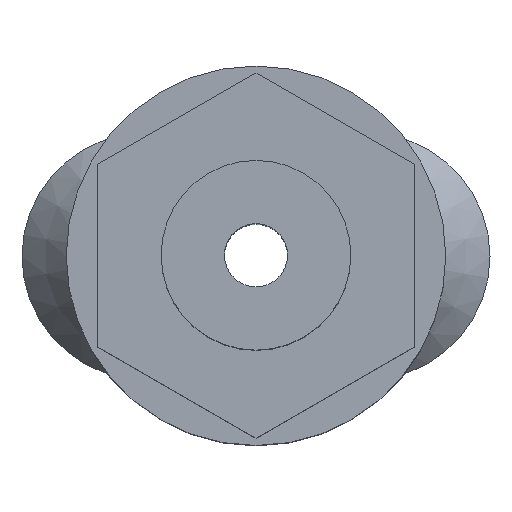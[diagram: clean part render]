
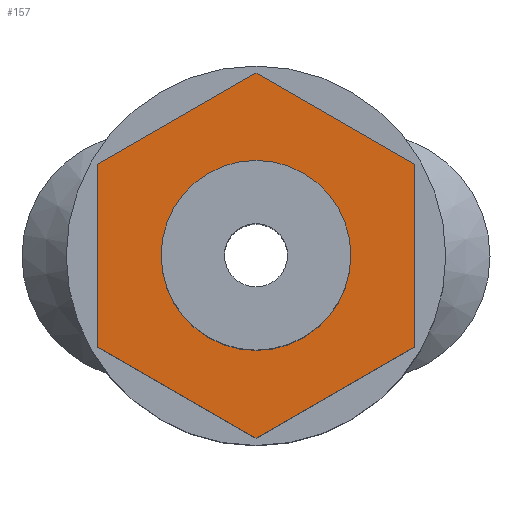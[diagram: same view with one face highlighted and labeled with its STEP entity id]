
A CAD part, top view. The second image highlights one B-rep face of the part: STEP entity #157.
In plain terms, the highlighted planar face has unit normal (0, 0, 1).
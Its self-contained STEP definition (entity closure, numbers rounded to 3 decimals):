
#157=ADVANCED_FACE('NONE',(#323,#324),#325,.T.);
#323=FACE_OUTER_BOUND('',#496,.T.);
#324=FACE_BOUND('',#497,.T.);
#325=PLANE('',#498);
#496=EDGE_LOOP('',(#887,#888,#889,#890,#891,#892));
#497=EDGE_LOOP('',(#893,#894));
#498=AXIS2_PLACEMENT_3D('',#895,#896,#897);
#887=ORIENTED_EDGE('',*,*,#1109,.T.);
#888=ORIENTED_EDGE('',*,*,#1113,.T.);
#889=ORIENTED_EDGE('',*,*,#1116,.T.);
#890=ORIENTED_EDGE('',*,*,#1119,.T.);
#891=ORIENTED_EDGE('',*,*,#1122,.T.);
#892=ORIENTED_EDGE('',*,*,#1124,.T.);
#893=ORIENTED_EDGE('',*,*,#1126,.F.);
#894=ORIENTED_EDGE('',*,*,#1127,.F.);
#895=CARTESIAN_POINT('',(0.,0.,0.0));
#896=DIRECTION('',(0.0,0.0,1.0));
#897=DIRECTION('',(1.0,-0.0,0.0));
#1109=EDGE_CURVE('NONE',#1339,#1337,#1340,.T.);
#1113=EDGE_CURVE('NONE',#1337,#1343,#1345,.T.);
#1116=EDGE_CURVE('NONE',#1343,#1347,#1349,.T.);
#1119=EDGE_CURVE('NONE',#1347,#1351,#1353,.T.);
#1122=EDGE_CURVE('NONE',#1351,#1355,#1357,.T.);
#1124=EDGE_CURVE('NONE',#1355,#1339,#1359,.T.);
#1126=EDGE_CURVE('NONE',#1361,#1362,#1363,.T.);
#1127=EDGE_CURVE('NONE',#1362,#1361,#1364,.T.);
#1337=VERTEX_POINT('NONE',#1636);
#1339=VERTEX_POINT('NONE',#1639);
#1340=LINE('',#1640,#1641);
#1343=VERTEX_POINT('NONE',#1645);
#1345=LINE('',#1648,#1649);
#1347=VERTEX_POINT('NONE',#1651);
#1349=LINE('',#1654,#1655);
#1351=VERTEX_POINT('NONE',#1657);
#1353=LINE('',#1660,#1661);
#1355=VERTEX_POINT('NONE',#1663);
#1357=LINE('',#1666,#1667);
#1359=LINE('',#1669,#1670);
#1361=VERTEX_POINT('NONE',#1672);
#1362=VERTEX_POINT('NONE',#1673);
#1363=CIRCLE('',#1674,1.5);
#1364=CIRCLE('',#1675,1.5);
#1636=CARTESIAN_POINT('',(2.5,-1.443,0.0));
#1639=CARTESIAN_POINT('',(0.,-2.887,0.0));
#1640=CARTESIAN_POINT('',(0.,-2.887,0.0));
#1641=VECTOR('',#1887,1000.0);
#1645=CARTESIAN_POINT('',(2.5,1.443,0.0));
#1648=CARTESIAN_POINT('',(2.5,-1.443,0.0));
#1649=VECTOR('',#1890,1000.0);
#1651=CARTESIAN_POINT('',(0.,2.887,0.0));
#1654=CARTESIAN_POINT('',(2.5,1.443,0.0));
#1655=VECTOR('',#1892,1000.0);
#1657=CARTESIAN_POINT('',(-2.5,1.443,0.0));
#1660=CARTESIAN_POINT('',(0.,2.887,0.0));
#1661=VECTOR('',#1894,1000.0);
#1663=CARTESIAN_POINT('',(-2.5,-1.443,0.0));
#1666=CARTESIAN_POINT('',(-2.5,1.443,0.0));
#1667=VECTOR('',#1896,1000.0);
#1669=CARTESIAN_POINT('',(-2.5,-1.443,0.0));
#1670=VECTOR('',#1897,1000.0);
#1672=CARTESIAN_POINT('',(0.,-1.5,0.0));
#1673=CARTESIAN_POINT('',(0.,1.5,0.0));
#1674=AXIS2_PLACEMENT_3D('',#1898,#1899,#1900);
#1675=AXIS2_PLACEMENT_3D('',#1901,#1902,#1903);
#1887=DIRECTION('',(0.866,0.5,0.0));
#1890=DIRECTION('',(0.,1.0,0.0));
#1892=DIRECTION('',(-0.866,0.5,0.0));
#1894=DIRECTION('',(-0.866,-0.5,0.0));
#1896=DIRECTION('',(0.,-1.0,0.0));
#1897=DIRECTION('',(0.866,-0.5,0.0));
#1898=CARTESIAN_POINT('',(0.0,0.0,0.0));
#1899=DIRECTION('',(0.0,0.0,1.0));
#1900=DIRECTION('',(0.,-1.0,0.0));
#1901=CARTESIAN_POINT('',(0.0,0.0,0.0));
#1902=DIRECTION('',(0.0,0.0,1.0));
#1903=DIRECTION('',(0.,-1.0,0.0));
